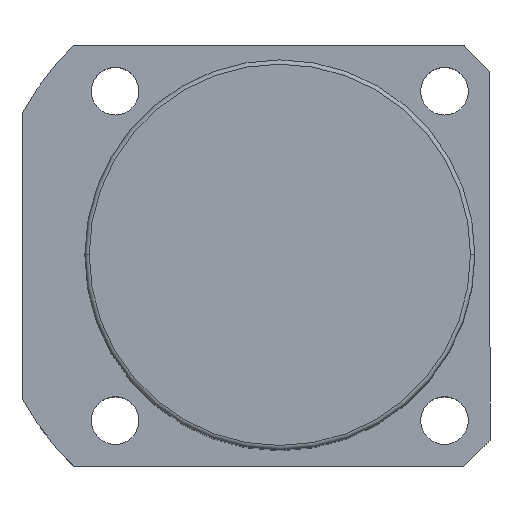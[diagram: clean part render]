
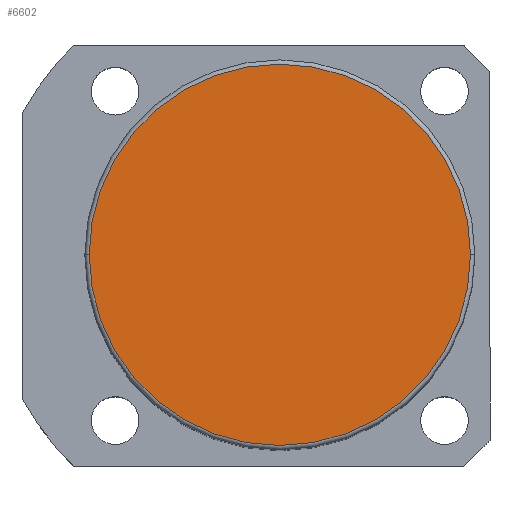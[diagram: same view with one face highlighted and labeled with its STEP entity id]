
A CAD part, top view. The second image highlights one B-rep face of the part: STEP entity #6602.
In plain terms, the highlighted planar face has unit normal (0, 0, 1).
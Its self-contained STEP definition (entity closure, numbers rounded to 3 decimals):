
#104 = FACE_OUTER_BOUND ( 'NONE', #5310, .T. ) ;
#296 = EDGE_CURVE ( 'NONE', #4195, #545, #5165, .T. ) ;
#446 = ORIENTED_EDGE ( 'NONE', *, *, #296, .T. ) ;
#545 = VERTEX_POINT ( 'NONE', #4367 ) ;
#941 = PLANE ( 'NONE',  #3889 ) ;
#1888 = EDGE_CURVE ( 'NONE', #545, #4195, #4814, .T. ) ;
#2289 = AXIS2_PLACEMENT_3D ( 'NONE', #4602, #4626, #4653 ) ;
#2621 = DIRECTION ( 'NONE',  ( 1., 0., 0. ) ) ;
#2772 = ORIENTED_EDGE ( 'NONE', *, *, #1888, .T. ) ;
#3165 = CARTESIAN_POINT ( 'NONE',  ( 0., 0., 151.5 ) ) ;
#3889 = AXIS2_PLACEMENT_3D ( 'NONE', #3165, #5925, #2621 ) ;
#4195 = VERTEX_POINT ( 'NONE', #6085 ) ;
#4367 = CARTESIAN_POINT ( 'NONE',  ( 44., 0., 151.5 ) ) ;
#4382 = DIRECTION ( 'NONE',  ( 1., 0., 0. ) ) ;
#4602 = CARTESIAN_POINT ( 'NONE',  ( 0., 0., 151.5 ) ) ;
#4626 = DIRECTION ( 'NONE',  ( 0., 0., 1. ) ) ;
#4653 = DIRECTION ( 'NONE',  ( 1., 0., 0. ) ) ;
#4814 = CIRCLE ( 'NONE', #5418, 44. ) ;
#5165 = CIRCLE ( 'NONE', #2289, 44. ) ;
#5310 = EDGE_LOOP ( 'NONE', ( #2772, #446 ) ) ;
#5418 = AXIS2_PLACEMENT_3D ( 'NONE', #6579, #7080, #4382 ) ;
#5925 = DIRECTION ( 'NONE',  ( 0., 0., 1. ) ) ;
#6085 = CARTESIAN_POINT ( 'NONE',  ( -44., 0., 151.5 ) ) ;
#6579 = CARTESIAN_POINT ( 'NONE',  ( 0., 0., 151.5 ) ) ;
#6602 = ADVANCED_FACE ( 'NONE', ( #104 ), #941, .T. ) ;
#7080 = DIRECTION ( 'NONE',  ( 0., 0., 1. ) ) ;
